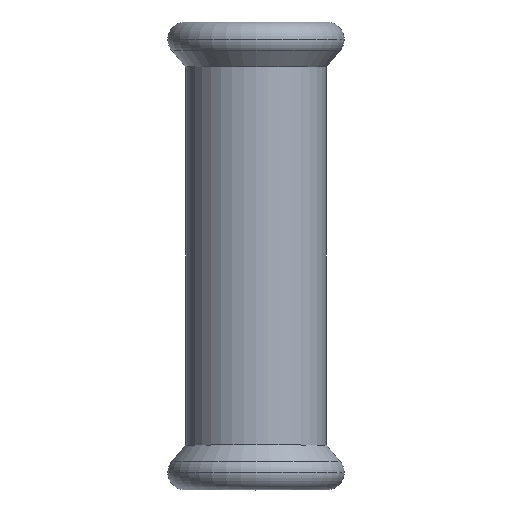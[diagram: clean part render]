
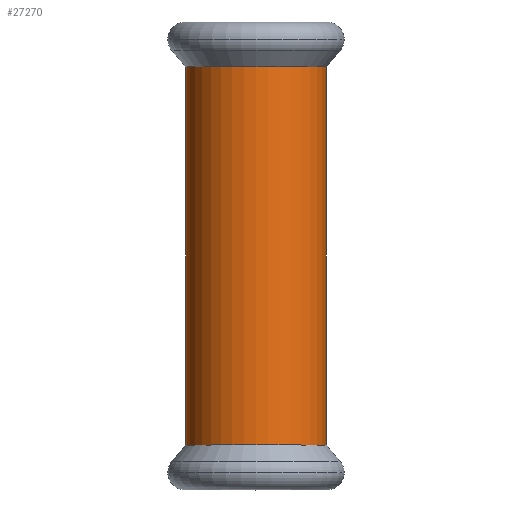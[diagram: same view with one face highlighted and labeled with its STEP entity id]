
A CAD part, top view. The second image highlights one B-rep face of the part: STEP entity #27270.
In plain terms, the highlighted cylindrical face has radius 12.65 mm (diameter 25.3 mm), a partial arc.
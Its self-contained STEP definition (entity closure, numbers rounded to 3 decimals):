
#1380=CARTESIAN_POINT('',(-306.641,56.893,0.));
#1390=VERTEX_POINT('',#1380);
#1570=CARTESIAN_POINT('',(-331.941,56.893,
0.));
#1580=VERTEX_POINT('',#1570);
#1610=CARTESIAN_POINT('',(-319.291,56.893,0.));
#1620=DIRECTION('',(0.,1.,0.));
#1630=DIRECTION('',(-1.,0.,0.));
#1640=AXIS2_PLACEMENT_3D('',#1610,#1620,#1630);
#1650=CIRCLE('',#1640,12.65);
#1710=CARTESIAN_POINT('',(-319.291,50.141,0.));
#1720=DIRECTION('',(0.,-1.,0.));
#1730=DIRECTION('',(-1.,0.,0.));
#1740=AXIS2_PLACEMENT_3D('',#1710,#1720,#1730);
#1750=CYLINDRICAL_SURFACE('',#1740,12.65);
#1760=CARTESIAN_POINT('',(-306.641,50.141,
0.));
#1770=DIRECTION('',(0.,-1.,0.));
#1780=VECTOR('',#1770,1.);
#1790=LINE('',#1760,#1780);
#1800=CARTESIAN_POINT('',(-306.641,-11.024,
0.));
#1810=VERTEX_POINT('',#1800);
#1820=EDGE_CURVE('',#1390,#1810,#1790,.T.);
#1850=CARTESIAN_POINT('',(-331.941,50.141,0.));
#1860=DIRECTION('',(0.,-1.,0.));
#1870=VECTOR('',#1860,1.);
#1880=LINE('',#1850,#1870);
#1890=CARTESIAN_POINT('',(-331.941,-11.024,0.));
#1900=VERTEX_POINT('',#1890);
#1910=EDGE_CURVE('',#1580,#1900,#1880,.T.);
#1930=CARTESIAN_POINT('',(-319.291,-11.024,0.));
#1940=DIRECTION('',(0.,-1.,0.));
#1950=DIRECTION('',(1.,0.,0.));
#1960=AXIS2_PLACEMENT_3D('',#1930,#1940,#1950);
#1970=CIRCLE('',#1960,12.65);
#26610=EDGE_CURVE('',#1580,#1390,#1650,.T.);
#26730=EDGE_CURVE('',#1810,#1900,#1970,.T.);
#27210=ORIENTED_EDGE('',*,*,#26610,.F.);
#27220=ORIENTED_EDGE('',*,*,#1820,.F.);
#27230=ORIENTED_EDGE('',*,*,#26730,.F.);
#27240=ORIENTED_EDGE('',*,*,#1910,.T.);
#27250=EDGE_LOOP('',(#27240,#27230,#27220,#27210));
#27260=FACE_OUTER_BOUND('',#27250,.T.);
#27270=ADVANCED_FACE('',(#27260),#1750,.T.);
